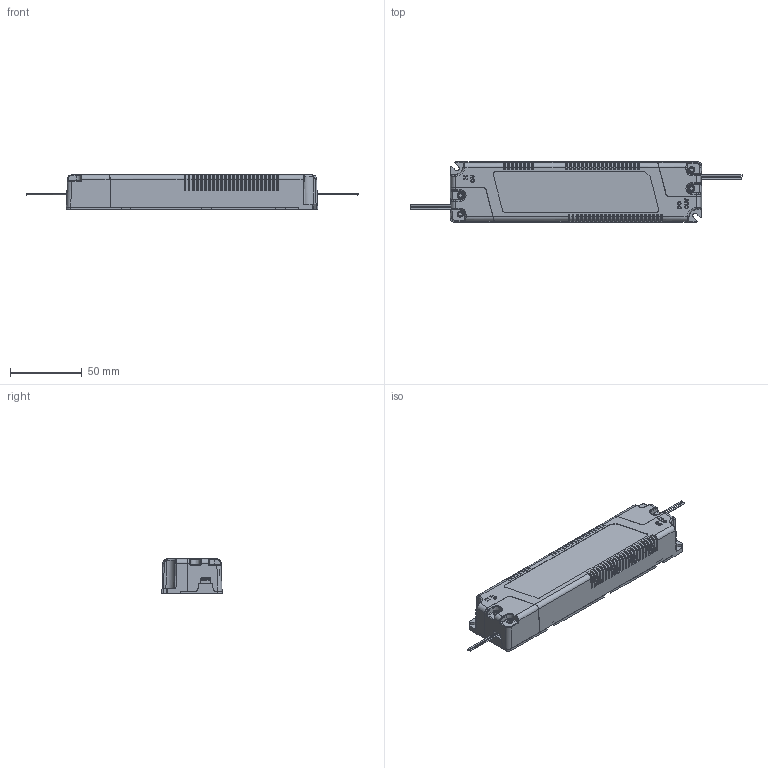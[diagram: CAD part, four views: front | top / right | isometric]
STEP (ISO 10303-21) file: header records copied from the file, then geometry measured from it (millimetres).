
FILE_DESCRIPTION(('Creo Elements/Direct Modeling STEP Export'),'2;1');
FILE_NAME('PLM-40.stp','2019-11-05T13:12:41',(''),(''),'PTC Creo Elements/Direct Modeling STEP processor for AP214 (Solid Model)','PTC Creo Elements/Direct Modeling 19.0E 27-Jun-2016 (C) Parametric Technology GmbH','');
FILE_SCHEMA(('AUTOMOTIVE_DESIGN { 1 0 10303 214 1 1 1 1 }'));
Length unit declared in the file: millimetre
Products named in the file (25): xc; xc.1; xxx.1; xxx; AC; top; DC; kakou; base; kakou.1; a1; TB2; TB1; PCB; HS2; pin.2; HS-2; HS1; pin.1; HS-1
Assembly tree (17 placements, depth 2):
  xxx.1
    xc.1
    xc
  xxx
    xc.1
    xc
  a1
    kakou.1
    base
    kakou
    DC
    top
    AC
  TB2
    TB2
  TB1
    TB1
Bounding box: 231.2 x 42 x 24.25 mm (x, y, z)
Volume: 53882.2 mm3; surface area: 77886.2 mm2
Topology: 17 solids, 17 shells, 3350 faces, 9800 edges, 6483 vertices
Faces by surface type: plane 2751, cylinder 449, bspline 58, cone 50, extrusion 22, torus 20
Entity records: 116332 total; most frequent: CARTESIAN_POINT 27719, ORIENTED_EDGE 19584, DIRECTION 16548, EDGE_CURVE 9792, VECTOR 8510, LINE 8488, VERTEX_POINT 6483, AXIS2_PLACEMENT_3D 4019
